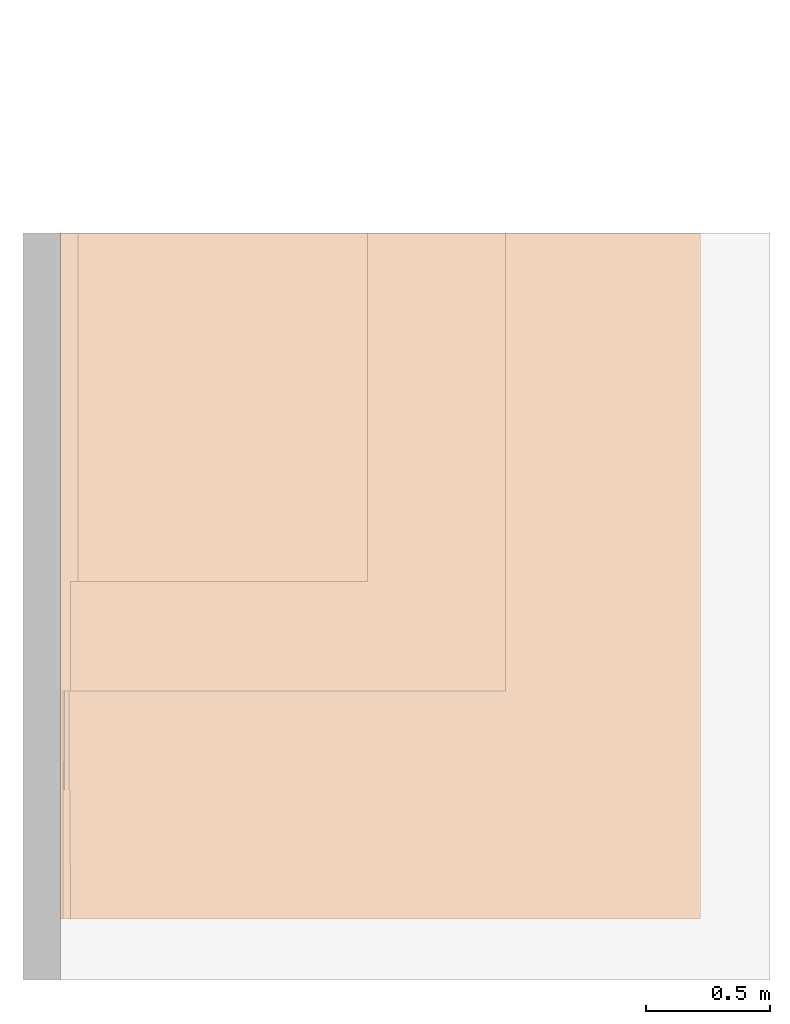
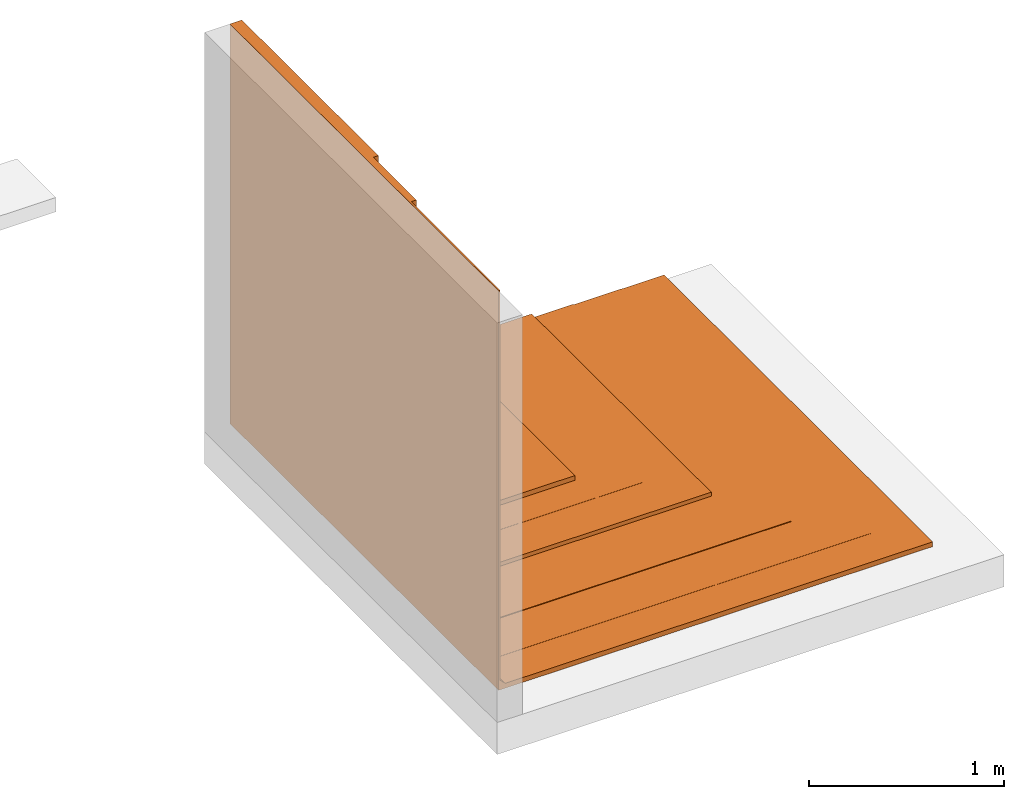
# One storey, part 2 of 2: 1 proxy.
"""IFC2X3 building model written with IfcOpenShell, lengths in metres."""

from ifc_helpers import new_model, entity, si_unit, converted_unit, derived_unit, direction, frame, frame_2d, origin, origin_2d_with_axis, place, context, subcontext, project, spatial, polyline, circle_curve, parameter, trimmed, segment, composite_curve, rectangle, outline, extrude, source, transform, mapped, material, material_list, type_object, type_shapes, element, save


model = new_model("IFC2X3")

# Units and contexts
model_context = context("Model", 3, precision=1e-05, world=origin(), true_north=direction((6.123031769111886e-17, 1.0)))
body_context = subcontext(model_context, "Body", "Model", "MODEL_VIEW")
ifc_project = project(units=[si_unit("LENGTHUNIT", "METRE"), si_unit("AREAUNIT", "SQUARE_METRE"), si_unit("VOLUMEUNIT", "CUBIC_METRE"), converted_unit("PLANEANGLEUNIT", "DEGREE", entity("IfcRatioMeasure", 0.017453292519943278), si_unit("PLANEANGLEUNIT", "RADIAN"), dimensions=[0, 0, 0, 0, 0, 0, 0]), si_unit("MASSUNIT", "GRAM", prefix="KILO"), derived_unit("MASSDENSITYUNIT", [(si_unit("MASSUNIT", "GRAM", prefix="KILO"), 1), (si_unit("LENGTHUNIT", "METRE"), -3)]), derived_unit("IONCONCENTRATIONUNIT", [(si_unit("MASSUNIT", "GRAM", prefix="KILO"), 1), (si_unit("LENGTHUNIT", "METRE"), -3)]), derived_unit("MOMENTOFINERTIAUNIT", [(si_unit("LENGTHUNIT", "METRE"), 4)]), si_unit("TIMEUNIT", "SECOND"), si_unit("FREQUENCYUNIT", "HERTZ"), si_unit("THERMODYNAMICTEMPERATUREUNIT", "DEGREE_CELSIUS"), derived_unit("THERMALTRANSMITTANCEUNIT", [(si_unit("MASSUNIT", "GRAM", prefix="KILO"), 1), (si_unit("THERMODYNAMICTEMPERATUREUNIT", "KELVIN"), -1), (si_unit("TIMEUNIT", "SECOND"), -3)]), derived_unit("THERMALCONDUCTANCEUNIT", [(si_unit("MASSUNIT", "GRAM", prefix="KILO"), 1), (si_unit("THERMODYNAMICTEMPERATUREUNIT", "KELVIN"), -1), (si_unit("TIMEUNIT", "SECOND"), -3), (si_unit("LENGTHUNIT", "METRE"), 1)]), derived_unit("VOLUMETRICFLOWRATEUNIT", [(si_unit("LENGTHUNIT", "METRE"), 3), (si_unit("TIMEUNIT", "SECOND"), -1)]), derived_unit("MASSFLOWRATEUNIT", [(si_unit("MASSUNIT", "GRAM", prefix="KILO"), 1), (si_unit("TIMEUNIT", "SECOND"), -1)]), derived_unit("ROTATIONALFREQUENCYUNIT", [(si_unit("TIMEUNIT", "SECOND"), -1)]), si_unit("ELECTRICCURRENTUNIT", "AMPERE"), si_unit("ELECTRICVOLTAGEUNIT", "VOLT"), si_unit("POWERUNIT", "WATT"), si_unit("FORCEUNIT", "NEWTON", prefix="KILO"), si_unit("ILLUMINANCEUNIT", "LUX"), si_unit("LUMINOUSFLUXUNIT", "LUMEN"), si_unit("LUMINOUSINTENSITYUNIT", "CANDELA"), derived_unit("USERDEFINED", [(si_unit("MASSUNIT", "GRAM", prefix="KILO"), -1), (si_unit("LENGTHUNIT", "METRE"), -2), (si_unit("TIMEUNIT", "SECOND"), 3), (si_unit("LUMINOUSFLUXUNIT", "LUMEN"), 1)]), derived_unit("USERDEFINED", [(si_unit("MASSUNIT", "GRAM", prefix="KILO"), 1), (si_unit("TIMEUNIT", "SECOND"), -3), (si_unit("LENGTHUNIT", "METRE"), 3), (si_unit("ELECTRICCURRENTUNIT", "AMPERE"), -2)]), derived_unit("SOUNDPOWERUNIT", [(si_unit("MASSUNIT", "GRAM", prefix="KILO"), 1), (si_unit("TIMEUNIT", "SECOND"), -3), (si_unit("LENGTHUNIT", "METRE"), 2)]), derived_unit("SOUNDPRESSUREUNIT", [(si_unit("MASSUNIT", "GRAM", prefix="KILO"), 1), (si_unit("LENGTHUNIT", "METRE"), -1), (si_unit("TIMEUNIT", "SECOND"), -2)]), derived_unit("LINEARVELOCITYUNIT", [(si_unit("LENGTHUNIT", "METRE"), 1), (si_unit("TIMEUNIT", "SECOND"), -1)]), si_unit("PRESSUREUNIT", "PASCAL"), derived_unit("USERDEFINED", [(si_unit("MASSUNIT", "GRAM", prefix="KILO"), 1), (si_unit("LENGTHUNIT", "METRE"), -2), (si_unit("TIMEUNIT", "SECOND"), -2)]), derived_unit("LINEARFORCEUNIT", [(si_unit("MASSUNIT", "GRAM", prefix="KILO"), 1), (si_unit("TIMEUNIT", "SECOND"), -2)]), derived_unit("PLANARFORCEUNIT", [(si_unit("MASSUNIT", "GRAM", prefix="KILO"), 1), (si_unit("LENGTHUNIT", "METRE"), -1), (si_unit("TIMEUNIT", "SECOND"), -2)]), derived_unit("SPECIFICHEATCAPACITYUNIT", [(si_unit("THERMODYNAMICTEMPERATUREUNIT", "KELVIN"), -1), (si_unit("LENGTHUNIT", "METRE"), 2), (si_unit("TIMEUNIT", "SECOND"), -2)]), derived_unit("HEATINGVALUEUNIT", [(si_unit("LENGTHUNIT", "METRE"), 2), (si_unit("TIMEUNIT", "SECOND"), -2)]), derived_unit("VAPORPERMEABILITYUNIT", [(si_unit("LENGTHUNIT", "METRE"), -1), (si_unit("TIMEUNIT", "SECOND"), 1)]), derived_unit("DYNAMICVISCOSITYUNIT", [(si_unit("MASSUNIT", "GRAM", prefix="KILO"), 1), (si_unit("TIMEUNIT", "SECOND"), -1), (si_unit("LENGTHUNIT", "METRE"), -1)]), derived_unit("THERMALEXPANSIONCOEFFICIENTUNIT", [(si_unit("THERMODYNAMICTEMPERATUREUNIT", "KELVIN"), -1)]), derived_unit("MODULUSOFELASTICITYUNIT", [(si_unit("MASSUNIT", "GRAM", prefix="KILO"), 1), (si_unit("LENGTHUNIT", "METRE"), -1), (si_unit("TIMEUNIT", "SECOND"), -2)]), derived_unit("ISOTHERMALMOISTURECAPACITYUNIT", [(si_unit("LENGTHUNIT", "METRE"), 3), (si_unit("MASSUNIT", "GRAM", prefix="KILO"), -1)]), derived_unit("MOISTUREDIFFUSIVITYUNIT", [(si_unit("TIMEUNIT", "SECOND"), -1), (si_unit("LENGTHUNIT", "METRE"), 2)])], contexts=[model_context])

# Site, building, storey
site_placement = place(None, origin())
site = spatial("IfcSite", under=ifc_project, at=site_placement, Name="Default", CompositionType="ELEMENT")
building_placement = place(site_placement, origin())
building = spatial("IfcBuilding", under=site, at=building_placement, CompositionType="ELEMENT")
storey_placement = place(building_placement, frame((0.0, 0.0, -0.0025237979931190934)))
storey = spatial("IfcBuildingStorey", under=building, at=storey_placement, Name="ARQ Térreo", CompositionType="ELEMENT", Elevation=-0.0025237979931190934)

# Proxy
ifc_material_1 = material(Name="#XPS")
ifc_material_2 = material(Name="#Vitkote Elastic")
ifc_material_3 = material(Name="#argamassa")
ifc_material_4 = material(Name="#Primer Adeflex")
ifc_material_5 = material(Name="# Torodin 4mm - TIPO III - Classe A")
ifc_material_6 = material(Name="#proteção mecânica")
ifc_material_7 = material(Name="#Tela Plástica")
ifc_material_8 = material(Name="#camada separadora")
ifc_material_9 = material(Name="#selante")
ifc_material_list = material_list([ifc_material_1, ifc_material_2, ifc_material_3, ifc_material_4, ifc_material_5, ifc_material_6, ifc_material_7, ifc_material_8, ifc_material_9])
building_element_proxy_type = type_object("IfcBuildingElementProxyType", Name="IMPER:IMPER", PredefinedType="NOTDEFINED", material=ifc_material_list)
shared_shape = source(origin(), body_context, "Body", "SweptSolid", [
    extrude(outline(composite_curve([segment(trimmed(circle_curve(frame_2d((-0.3364290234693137, 0.5044489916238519), x_axis=(1.0, 0.0)), 0.024999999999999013), [parameter(92.59659785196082)], [parameter(178.27647583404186)], True, "PARAMETER"), True, "CONTINUOUS"), segment(polyline([(-0.36141771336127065, 0.5052009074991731), (-0.3604177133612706, 0.5052009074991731)]), True, "CONTINUOUS"), segment(polyline([(-0.3604177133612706, 0.5052009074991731), (-0.3604177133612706, 0.3990091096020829)]), True, "CONTINUOUS"), segment(polyline([(-0.3604177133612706, 0.3990091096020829), (-0.36542902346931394, 0.39399779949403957)]), True, "CONTINUOUS"), segment(polyline([(-0.36542902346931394, 0.3939977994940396), (-0.36542902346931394, -1.9355510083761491)]), True, "CONTINUOUS"), segment(polyline([(-0.36542902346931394, -1.9355510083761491), (-0.3354177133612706, -1.9355510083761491)]), True, "CONTINUOUS"), segment(polyline([(-0.3354177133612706, -1.9355510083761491), (-0.3354177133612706, 0.5044233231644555)]), True, "CONTINUOUS"), segment(polyline([(-0.3354177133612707, 0.5044233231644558), (1.41075411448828, 0.5044233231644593)]), True, "CONTINUOUS"), segment(polyline([(1.41075411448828, 0.5044233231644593), (1.41075411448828, 0.5294233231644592)]), True, "CONTINUOUS"), segment(polyline([(1.41075411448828, 0.5294233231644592), (-0.33756161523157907, 0.5294233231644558)]), True, "CONTINUOUS")], self_intersect=False)), frame((0.024458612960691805, -1.6941090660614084, 0.5619251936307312), z_axis=(0.0, 1.0, 0.0), x_axis=(1.0, 0.0, 0.0)), (0.0, 0.0, 1.0), 1.839979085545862),
    extrude(outline(polyline([(-0.35294673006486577, 0.34979692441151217), (-0.4277427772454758, 0.4245929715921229), (-0.4284498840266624, 0.4238858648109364), (-0.3533609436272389, 0.3487969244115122), (-0.3462738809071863, 0.3487969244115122), (1.3009658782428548, -1.2984428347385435), (1.3016729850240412, -1.297735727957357), (-0.3465747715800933, 0.35051202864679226), (-0.3472898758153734, 0.34979692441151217), (-0.35294673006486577, 0.34979692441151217)])), frame((-0.339186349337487, -1.9751610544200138, 0.6594166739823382), z_axis=(0.0, -1.0, 0.0), x_axis=(-0.7071067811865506, 0.0, 0.7071067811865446)), (0.0, 0.0, -1.0), 2.1210310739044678),
    extrude(rectangle(XDim=2.7543580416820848, YDim=0.009999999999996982, at=frame_2d((0.0, 3.382710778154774e-17), x_axis=(1.0, 0.0))), frame((-0.3469704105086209, -1.2313090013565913, -0.0025237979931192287), z_axis=(0.0, 0.0, 1.0), x_axis=(0.0, -1.0, 0.0)), (0.0, 0.0, 1.0), 2.4999999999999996),
    extrude(outline(composite_curve([segment(polyline([(-1.0, -0.006000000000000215), (1.5300000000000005, -0.006000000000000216)]), True, "CONTINUOUS"), segment(polyline([(1.5300000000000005, -0.006000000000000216), (1.5300000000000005, 0.023999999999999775)]), True, "CONTINUOUS"), segment(polyline([(1.5300000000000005, 0.023999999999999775), (-1.0300000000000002, 0.023999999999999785)]), True, "CONTINUOUS"), segment(polyline([(-1.0300000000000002, 0.023999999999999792), (-1.0300000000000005, -0.03599999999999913)]), True, "CONTINUOUS"), segment(trimmed(circle_curve(frame_2d((-1.0, -0.03599999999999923), x_axis=(1.0, 0.0)), 0.029999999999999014), [parameter(90.0000000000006)], [parameter(179.99999999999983)], True, "PARAMETER"), False, "CONTINUOUS")], self_intersect=False)), frame((0.688029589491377, -2.6084880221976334, 0.021476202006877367), z_axis=(0.0, 1.0, 0.0), x_axis=(1.0, 0.0, 0.0)), (0.0, 0.0, 1.0), 2.7543580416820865),
    extrude(outline(composite_curve([segment(polyline([(-0.5865890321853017, -0.013221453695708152), (-0.5865890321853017, 0.09661406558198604)]), True, "CONTINUOUS"), segment(polyline([(-0.5865890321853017, 0.09661406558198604), (-0.5876003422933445, 0.09661406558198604)]), True, "CONTINUOUS"), segment(polyline([(-0.5876003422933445, 0.09661406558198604), (-0.5876003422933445, -0.012411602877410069)]), True, "CONTINUOUS"), segment(trimmed(circle_curve(frame_2d((-0.5576003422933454, -0.012411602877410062), x_axis=(1.0, 0.0)), 0.029999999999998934), [parameter(179.99999999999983)], [parameter(270.00000000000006)], True, "PARAMETER"), True, "CONTINUOUS"), segment(polyline([(-0.5576003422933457, -0.04241160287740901), (1.732399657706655, -0.042411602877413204)]), True, "CONTINUOUS"), segment(polyline([(1.732399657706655, -0.042411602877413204), (1.732399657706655, -0.04138593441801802)]), True, "CONTINUOUS"), segment(polyline([(1.732399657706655, -0.04138593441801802), (-0.5588202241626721, -0.04138593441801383)]), True, "CONTINUOUS"), segment(trimmed(circle_curve(frame_2d((-0.5576003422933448, -0.012411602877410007), x_axis=(1.0, 0.0)), 0.028999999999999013), [parameter(181.60024369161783)], [parameter(267.5891478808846)], True, "PARAMETER"), False, "CONTINUOUS")], self_intersect=False)), frame((0.245629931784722, -2.3859840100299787, 0.06988780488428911), z_axis=(0.0, -1.0, 0.0), x_axis=(1.0, 0.0, 0.0)), (0.0, 0.0, -1.0), 2.5318540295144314),
    extrude(outline(composite_curve([segment(polyline([(-0.5087002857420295, -0.013825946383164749), (-0.5087002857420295, 0.09195163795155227)]), True, "CONTINUOUS"), segment(polyline([(-0.5087002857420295, 0.09195163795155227), (-0.5127002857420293, 0.09595163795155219)]), True, "CONTINUOUS"), segment(polyline([(-0.5127002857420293, 0.09595163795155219), (-0.5127002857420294, -0.013883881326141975)]), True, "CONTINUOUS"), segment(trimmed(circle_curve(frame_2d((-0.4837115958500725, -0.01307403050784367), x_axis=(1.0, 0.0)), 0.028999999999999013), [parameter(181.60024369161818)], [parameter(267.5891478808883)], True, "PARAMETER"), True, "CONTINUOUS"), segment(polyline([(-0.4849314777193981, -0.04204836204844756), (1.506288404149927, -0.042048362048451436)]), True, "CONTINUOUS"), segment(polyline([(1.506288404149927, -0.042048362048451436), (1.506288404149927, -0.0380483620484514)]), True, "CONTINUOUS"), segment(polyline([(1.506288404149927, -0.0380483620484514), (-0.48484418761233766, -0.03804836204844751)]), True, "CONTINUOUS"), segment(trimmed(circle_curve(frame_2d((-0.4837115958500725, -0.01307403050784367), x_axis=(1.0, 0.0)), 0.024999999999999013), [parameter(181.72352416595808)], [parameter(267.40340214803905)], True, "PARAMETER"), False, "CONTINUOUS")], self_intersect=False)), frame((0.1717411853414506, -2.091049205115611, 0.07055023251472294), z_axis=(0.0, -1.0, 0.0), x_axis=(1.0, 0.0, 0.0)), (0.0, 0.0, -1.0), 2.2369192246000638),
    extrude(outline(polyline([(-0.5558609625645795, -0.2858827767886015), (1.8831133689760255, -0.2858827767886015), (1.8831133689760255, -0.25588277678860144), (-0.5258609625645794, -0.25588277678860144), (-0.5384609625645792, -0.2558827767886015), (-0.5384609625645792, -0.23735681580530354), (-0.5258609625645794, -0.23735681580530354), (-0.5258609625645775, 0.9070637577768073), (-0.5558609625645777, 0.9070637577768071), (-0.5558609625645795, -0.2858827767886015)])), frame((-0.025076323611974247, -1.2541299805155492, 0.6143628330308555), z_axis=(0.0, 1.0, 0.0), x_axis=(0.0, 0.0, 1.0)), (0.0, 0.0, 1.0), 1.3999999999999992),
    extrude(rectangle(XDim=1.8399790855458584, YDim=0.0009999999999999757, at=origin_2d_with_axis()), frame((-0.2959591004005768, -0.7741195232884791, 0.08850187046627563), z_axis=(0.0, 0.0, 1.0), x_axis=(0.0, -1.0, 0.0)), (0.0, 0.0, 1.0), 0.4),
    extrude(rectangle(XDim=1.4812644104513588, YDim=1.589332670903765, at=origin_2d_with_axis()), frame((0.42967310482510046, -0.6487963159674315, 0.0575018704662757), z_axis=(0.0, 0.0, 1.0), x_axis=(-1.0, 0.0, 0.0)), (0.0, 0.0, 1.0), 0.0009999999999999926),
    extrude(rectangle(XDim=0.01852596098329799, YDim=1.4000000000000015, at=origin_2d_with_axis()), frame((-0.27169611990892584, -0.5541299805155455, 0.07590187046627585), z_axis=(0.0, 0.0, 1.0), x_axis=(-1.0, 0.0, 0.0)), (0.0, 0.0, 1.0), 0.012599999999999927),
])
type_shapes(building_element_proxy_type, [shared_shape])
proxy_placement = place(storey_placement, frame((0.0, 0.0, 0.0025237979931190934)))
element("IfcBuildingElementProxy", 1, at=proxy_placement, inside=storey, type_object=building_element_proxy_type, material=ifc_material_list, Name="IMPER:IMPER:IMPER : IMPER:IMPER", ObjectType="IMPER:IMPER:IMPER : IMPER:IMPER", context=body_context, shape_type="MappedRepresentation", body=[
    mapped(shared_shape, transform((0.0, 0.0, 0.0), scale=1.0)),
])

save(model, "model.ifc")
